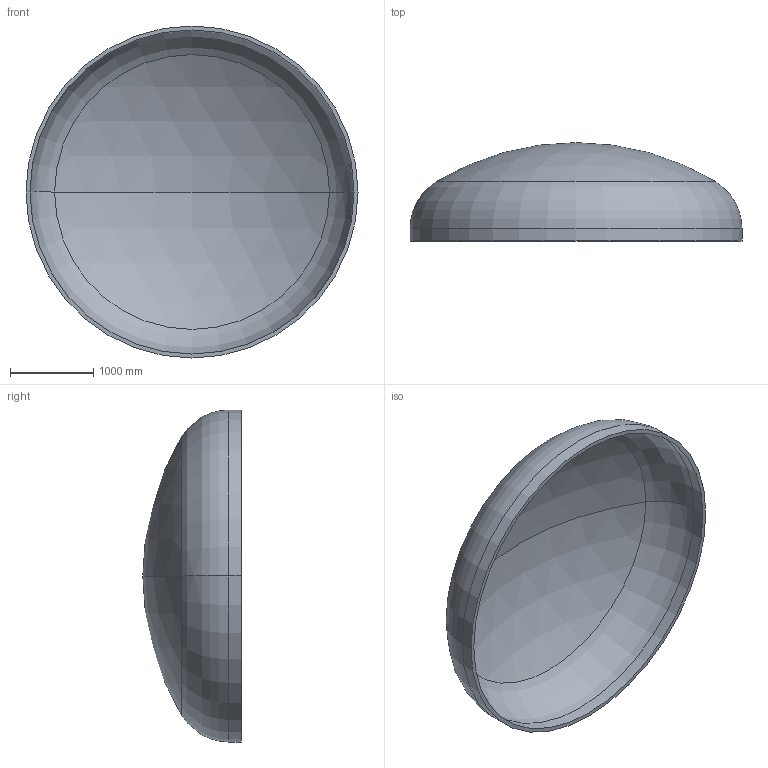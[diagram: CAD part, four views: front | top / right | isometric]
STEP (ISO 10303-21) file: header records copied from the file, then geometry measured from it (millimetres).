
FILE_DESCRIPTION (( 'STEP AP203' ), '1' );
FILE_NAME ('DIN 28013 Korbbogenform_-_Boden DIN 28013 - 4000 x 150 - I - s=48.step', '2016-07-01T22:28:25', ( '' ), ( '' ), 'SwSTEP 2.0', 'SolidWorks 2013', '' );
FILE_SCHEMA (( 'CONFIG_CONTROL_DESIGN' ));
Length unit declared in the file: millimetre
Products named in the file (1): DIN 28013 Korbbogenform_-_Boden DIN 28013 - 4000 x 150 - I - s=48
Bounding box: 4000 x 1185.61 x 4000 mm (x, y, z)
Volume: 911383417.8 mm3; surface area: 38575068.5 mm2
Topology: 1 solids, 1 shells, 13 faces, 24 edges, 14 vertices
Faces by surface type: torus 4, cylinder 4, sphere 4, plane 1
Entity records: 407 total; most frequent: DIRECTION 72, CARTESIAN_POINT 52, ORIENTED_EDGE 48, AXIS2_PLACEMENT_3D 34, EDGE_CURVE 24, CIRCLE 20, EDGE_LOOP 14, VERTEX_POINT 14
